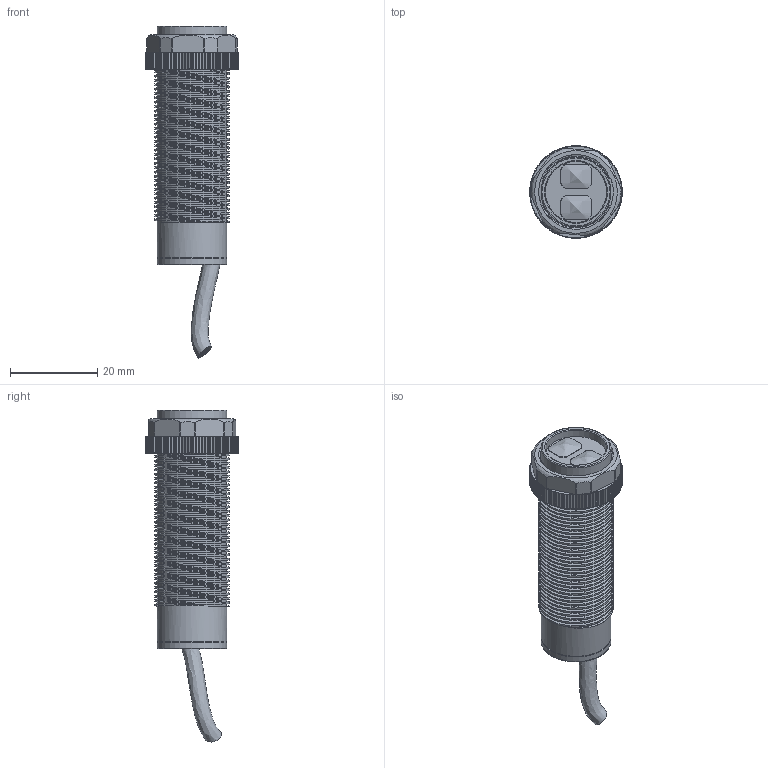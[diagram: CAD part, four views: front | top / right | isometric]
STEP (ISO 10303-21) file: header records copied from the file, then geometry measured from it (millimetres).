
FILE_DESCRIPTION(/* description */ (''),/* implementation_level */ '2;1');
FILE_NAME(/* name */ 'C:/Users/User/Desktop/IR Sensor v1.step',/* time_stamp */ '2020-09-21T13:38:02+08:00',/* author */ (''),/* organization */ (''),/* preprocessor_version */ 'ST-DEVELOPER v18.1',/* originating_system */ 'Autodesk Translation Framework v9.3.0.1241',/* authorisation */ '');
FILE_SCHEMA (('AUTOMOTIVE_DESIGN { 1 0 10303 214 3 1 1 }'));
Products named in the file (3): IR Sensor; IR Sensor_1; Nut
Assembly tree (2 placements, depth 2):
  IR Sensor
    IR Sensor_1
    Nut
Bounding box: 21.25 x 21.25 x 76.16 mm (x, y, z)
Volume: 12440.1 mm3; surface area: 6947.9 mm2
Topology: 2 solids, 2 shells, 642 faces, 1797 edges, 1198 vertices
Faces by surface type: cylinder 244, bspline 155, plane 125, torus 106, cone 12
Full cylindrical faces by diameter (mm): 0.5 x3, 1.2 x3, 2.2 x1, 2.5 x1, 14 x1, 15 x2, 16 x40, 17.132 x37, 17.14 x1
Entity records: 64736 total; most frequent: CARTESIAN_POINT 49469, ORIENTED_EDGE 3594, DIRECTION 2327, EDGE_CURVE 1797, VERTEX_POINT 1198, AXIS2_PLACEMENT_3D 907, EDGE_LOOP 683, STYLED_ITEM 644
